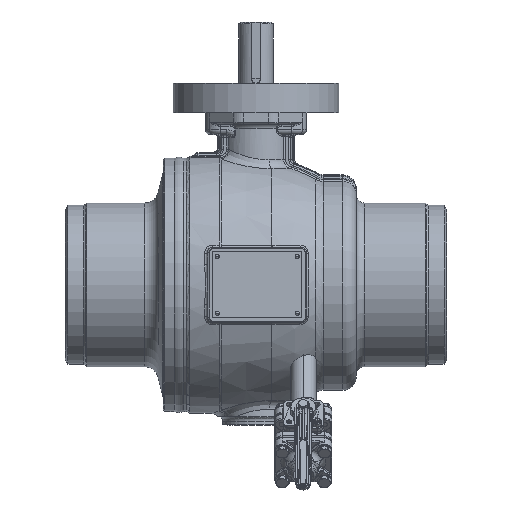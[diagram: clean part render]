
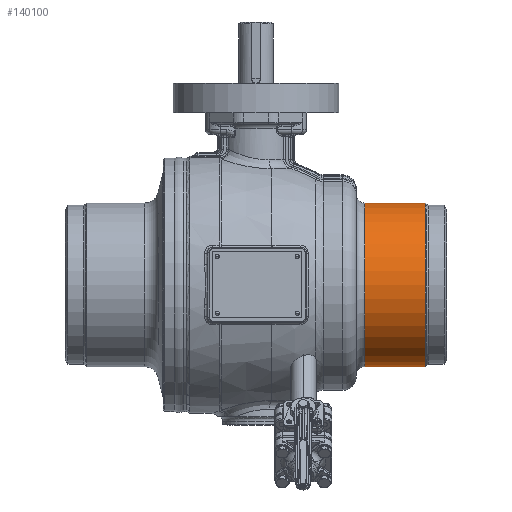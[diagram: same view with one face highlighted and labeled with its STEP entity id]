
A CAD part, front view. The second image highlights one B-rep face of the part: STEP entity #140100.
In plain terms, the highlighted cylindrical face has radius 86.5 mm (diameter 173 mm), a partial arc.
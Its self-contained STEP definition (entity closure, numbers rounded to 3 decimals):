
#39298=CARTESIAN_POINT('',(179.15,0.,0.));
#39299=DIRECTION('',(-1.,0.,0.));
#39300=DIRECTION('',(0.,0.,-1.));
#39301=AXIS2_PLACEMENT_3D('',#39298,#39299,#39300);
#39303=DIRECTION('',(-1.,0.,0.));
#39304=VECTOR('',#39303,64.15);
#39305=CARTESIAN_POINT('',(179.15,0.,-86.5));
#39306=LINE('',#39305,#39304);
#39307=CARTESIAN_POINT('',(115.,0.,0.));
#39308=DIRECTION('',(1.,0.,0.));
#39309=DIRECTION('',(0.,0.,1.));
#39310=AXIS2_PLACEMENT_3D('',#39307,#39308,#39309);
#39312=DIRECTION('',(-1.,0.,0.));
#39313=VECTOR('',#39312,64.15);
#39314=CARTESIAN_POINT('',(179.15,0.,86.5));
#39315=LINE('',#39314,#39313);
#64576=CARTESIAN_POINT('',(115.,0.,86.5));
#64577=CARTESIAN_POINT('',(115.,0.,-86.5));
#64578=VERTEX_POINT('',#64576);
#64579=VERTEX_POINT('',#64577);
#64672=CARTESIAN_POINT('',(179.15,0.,86.5));
#64673=CARTESIAN_POINT('',(179.15,0.,-86.5));
#64674=VERTEX_POINT('',#64672);
#64675=VERTEX_POINT('',#64673);
#140089=CARTESIAN_POINT('',(218.35,0.,0.));
#140090=DIRECTION('',(-1.,0.,0.));
#140091=DIRECTION('',(0.,0.,1.));
#140092=AXIS2_PLACEMENT_3D('',#140089,#140090,#140091);
#140093=CYLINDRICAL_SURFACE('',#140092,86.5);
#140094=ORIENTED_EDGE('',*,*,#140083,.F.);
#140095=ORIENTED_EDGE('',*,*,#139999,.T.);
#140096=ORIENTED_EDGE('',*,*,#139969,.F.);
#140097=ORIENTED_EDGE('',*,*,#139996,.F.);
#140098=EDGE_LOOP('',(#140094,#140095,#140096,#140097));
#140099=FACE_OUTER_BOUND('',#140098,.F.);
#140100=ADVANCED_FACE('',(#140099),#140093,.T.);
#39302=CIRCLE('',#39301,86.5);
#39311=CIRCLE('',#39310,86.5);
#139969=EDGE_CURVE('',#64578,#64579,#39311,.T.);
#139996=EDGE_CURVE('',#64674,#64578,#39315,.T.);
#139999=EDGE_CURVE('',#64675,#64579,#39306,.T.);
#140083=EDGE_CURVE('',#64675,#64674,#39302,.T.);
